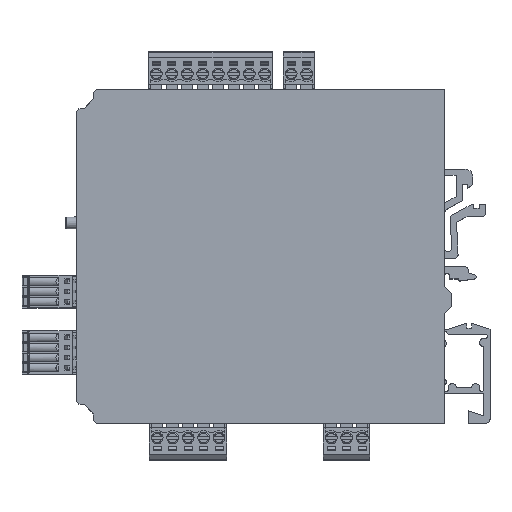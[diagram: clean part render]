
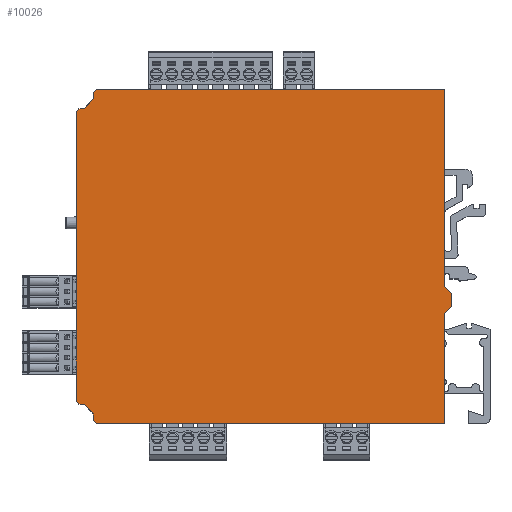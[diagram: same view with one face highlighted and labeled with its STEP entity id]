
A CAD part, top view. The second image highlights one B-rep face of the part: STEP entity #10026.
In plain terms, the highlighted planar face has unit normal (0, 0, 1) as drawn and (0, -1, 0) by its records, which use the part's own axes.
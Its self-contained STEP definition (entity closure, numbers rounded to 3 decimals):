
#9722 = VERTEX_POINT('',#9723);
#9723 = CARTESIAN_POINT('',(40.259,0.,-41.02));
#9738 = VERTEX_POINT('',#9739);
#9739 = CARTESIAN_POINT('',(41.,0.,-40.348));
#9745 = EDGE_CURVE('',#9722,#9738,#9746,.T.);
#9746 = LINE('',#9747,#9748);
#9747 = CARTESIAN_POINT('',(38.561,0.,-42.558));
#9748 = VECTOR('',#9749,1.);
#9749 = DIRECTION('',(0.741,0.,0.671));
#9970 = VERTEX_POINT('',#9971);
#9971 = CARTESIAN_POINT('',(-40.259,0.,-41.02));
#9977 = EDGE_CURVE('',#9978,#9970,#9980,.T.);
#9978 = VERTEX_POINT('',#9979);
#9979 = CARTESIAN_POINT('',(-41.,0.,-40.348));
#9980 = LINE('',#9981,#9982);
#9981 = CARTESIAN_POINT('',(-38.561,0.,-42.558));
#9982 = VECTOR('',#9983,1.);
#9983 = DIRECTION('',(0.741,0.,-0.671));
#9999 = EDGE_CURVE('',#10000,#10002,#10004,.T.);
#10000 = VERTEX_POINT('',#10001);
#10001 = CARTESIAN_POINT('',(-36.331,0.,-44.579));
#10002 = VERTEX_POINT('',#10003);
#10003 = CARTESIAN_POINT('',(-35.59,0.,-45.25));
#10004 = LINE('',#10005,#10006);
#10005 = CARTESIAN_POINT('',(-38.561,0.,-42.558));
#10006 = VECTOR('',#10007,1.);
#10007 = DIRECTION('',(0.741,0.,-0.671));
#10026 = ADVANCED_FACE('',(#10027),#10146,.F.);
#10027 = FACE_BOUND('',#10028,.T.);
#10028 = EDGE_LOOP('',(#10029,#10039,#10045,#10046,#10054,#10062,#10070,
    #10078,#10086,#10094,#10100,#10101,#10109,#10117,#10123,#10124,
    #10132,#10140));
#10029 = ORIENTED_EDGE('',*,*,#10030,.T.);
#10030 = EDGE_CURVE('',#10031,#10033,#10035,.T.);
#10031 = VERTEX_POINT('',#10032);
#10032 = CARTESIAN_POINT('',(36.331,0.,-43.229));
#10033 = VERTEX_POINT('',#10034);
#10034 = CARTESIAN_POINT('',(38.77,0.,-41.02));
#10035 = LINE('',#10036,#10037);
#10036 = CARTESIAN_POINT('',(37.89,0.,-41.817));
#10037 = VECTOR('',#10038,1.);
#10038 = DIRECTION('',(0.741,-0.,0.671));
#10039 = ORIENTED_EDGE('',*,*,#10040,.T.);
#10040 = EDGE_CURVE('',#10033,#9722,#10041,.T.);
#10041 = LINE('',#10042,#10043);
#10042 = CARTESIAN_POINT('',(0.,0.,-41.02));
#10043 = VECTOR('',#10044,1.);
#10044 = DIRECTION('',(1.,-0.,0.));
#10045 = ORIENTED_EDGE('',*,*,#9745,.T.);
#10046 = ORIENTED_EDGE('',*,*,#10047,.F.);
#10047 = EDGE_CURVE('',#10048,#9738,#10050,.T.);
#10048 = VERTEX_POINT('',#10049);
#10049 = CARTESIAN_POINT('',(41.,0.,45.25));
#10050 = LINE('',#10051,#10052);
#10051 = CARTESIAN_POINT('',(41.,0.,0.));
#10052 = VECTOR('',#10053,1.);
#10053 = DIRECTION('',(-0.,0.,-1.));
#10054 = ORIENTED_EDGE('',*,*,#10055,.F.);
#10055 = EDGE_CURVE('',#10056,#10048,#10058,.T.);
#10056 = VERTEX_POINT('',#10057);
#10057 = CARTESIAN_POINT('',(14.,0.,45.25));
#10058 = LINE('',#10059,#10060);
#10059 = CARTESIAN_POINT('',(0.,0.,45.25));
#10060 = VECTOR('',#10061,1.);
#10061 = DIRECTION('',(1.,-0.,0.));
#10062 = ORIENTED_EDGE('',*,*,#10063,.T.);
#10063 = EDGE_CURVE('',#10056,#10064,#10066,.T.);
#10064 = VERTEX_POINT('',#10065);
#10065 = CARTESIAN_POINT('',(12.27,0.,46.98));
#10066 = LINE('',#10067,#10068);
#10067 = CARTESIAN_POINT('',(29.625,0.,29.625));
#10068 = VECTOR('',#10069,1.);
#10069 = DIRECTION('',(-0.707,0.,0.707));
#10070 = ORIENTED_EDGE('',*,*,#10071,.F.);
#10071 = EDGE_CURVE('',#10072,#10064,#10074,.T.);
#10072 = VERTEX_POINT('',#10073);
#10073 = CARTESIAN_POINT('',(9.08,0.,46.98));
#10074 = LINE('',#10075,#10076);
#10075 = CARTESIAN_POINT('',(0.,0.,46.98));
#10076 = VECTOR('',#10077,1.);
#10077 = DIRECTION('',(1.,-0.,0.));
#10078 = ORIENTED_EDGE('',*,*,#10079,.F.);
#10079 = EDGE_CURVE('',#10080,#10072,#10082,.T.);
#10080 = VERTEX_POINT('',#10081);
#10081 = CARTESIAN_POINT('',(7.35,0.,45.25));
#10082 = LINE('',#10083,#10084);
#10083 = CARTESIAN_POINT('',(-18.95,0.,18.95));
#10084 = VECTOR('',#10085,1.);
#10085 = DIRECTION('',(0.707,0.,0.707));
#10086 = ORIENTED_EDGE('',*,*,#10087,.F.);
#10087 = EDGE_CURVE('',#10088,#10080,#10090,.T.);
#10088 = VERTEX_POINT('',#10089);
#10089 = CARTESIAN_POINT('',(-41.,0.,45.25));
#10090 = LINE('',#10091,#10092);
#10091 = CARTESIAN_POINT('',(0.,0.,45.25));
#10092 = VECTOR('',#10093,1.);
#10093 = DIRECTION('',(1.,-0.,0.));
#10094 = ORIENTED_EDGE('',*,*,#10095,.T.);
#10095 = EDGE_CURVE('',#10088,#9978,#10096,.T.);
#10096 = LINE('',#10097,#10098);
#10097 = CARTESIAN_POINT('',(-41.,0.,0.));
#10098 = VECTOR('',#10099,1.);
#10099 = DIRECTION('',(-0.,0.,-1.));
#10100 = ORIENTED_EDGE('',*,*,#9977,.T.);
#10101 = ORIENTED_EDGE('',*,*,#10102,.F.);
#10102 = EDGE_CURVE('',#10103,#9970,#10105,.T.);
#10103 = VERTEX_POINT('',#10104);
#10104 = CARTESIAN_POINT('',(-38.77,0.,-41.02));
#10105 = LINE('',#10106,#10107);
#10106 = CARTESIAN_POINT('',(0.,0.,-41.02));
#10107 = VECTOR('',#10108,1.);
#10108 = DIRECTION('',(-1.,0.,-0.));
#10109 = ORIENTED_EDGE('',*,*,#10110,.F.);
#10110 = EDGE_CURVE('',#10111,#10103,#10113,.T.);
#10111 = VERTEX_POINT('',#10112);
#10112 = CARTESIAN_POINT('',(-36.331,0.,-43.229));
#10113 = LINE('',#10114,#10115);
#10114 = CARTESIAN_POINT('',(-37.89,0.,-41.817));
#10115 = VECTOR('',#10116,1.);
#10116 = DIRECTION('',(-0.741,0.,0.671));
#10117 = ORIENTED_EDGE('',*,*,#10118,.F.);
#10118 = EDGE_CURVE('',#10000,#10111,#10119,.T.);
#10119 = LINE('',#10120,#10121);
#10120 = CARTESIAN_POINT('',(-36.331,0.,0.));
#10121 = VECTOR('',#10122,1.);
#10122 = DIRECTION('',(0.,0.,1.));
#10123 = ORIENTED_EDGE('',*,*,#9999,.T.);
#10124 = ORIENTED_EDGE('',*,*,#10125,.T.);
#10125 = EDGE_CURVE('',#10002,#10126,#10128,.T.);
#10126 = VERTEX_POINT('',#10127);
#10127 = CARTESIAN_POINT('',(35.59,0.,-45.25));
#10128 = LINE('',#10129,#10130);
#10129 = CARTESIAN_POINT('',(0.,0.,-45.25));
#10130 = VECTOR('',#10131,1.);
#10131 = DIRECTION('',(1.,-0.,0.));
#10132 = ORIENTED_EDGE('',*,*,#10133,.T.);
#10133 = EDGE_CURVE('',#10126,#10134,#10136,.T.);
#10134 = VERTEX_POINT('',#10135);
#10135 = CARTESIAN_POINT('',(36.331,0.,-44.579));
#10136 = LINE('',#10137,#10138);
#10137 = CARTESIAN_POINT('',(38.561,0.,-42.558));
#10138 = VECTOR('',#10139,1.);
#10139 = DIRECTION('',(0.741,0.,0.671));
#10140 = ORIENTED_EDGE('',*,*,#10141,.T.);
#10141 = EDGE_CURVE('',#10134,#10031,#10142,.T.);
#10142 = LINE('',#10143,#10144);
#10143 = CARTESIAN_POINT('',(36.331,0.,0.));
#10144 = VECTOR('',#10145,1.);
#10145 = DIRECTION('',(0.,0.,1.));
#10146 = PLANE('',#10147);
#10147 = AXIS2_PLACEMENT_3D('',#10148,#10149,#10150);
#10148 = CARTESIAN_POINT('',(0.,0.,0.));
#10149 = DIRECTION('',(-0.,1.,0.));
#10150 = DIRECTION('',(0.,0.,1.));
